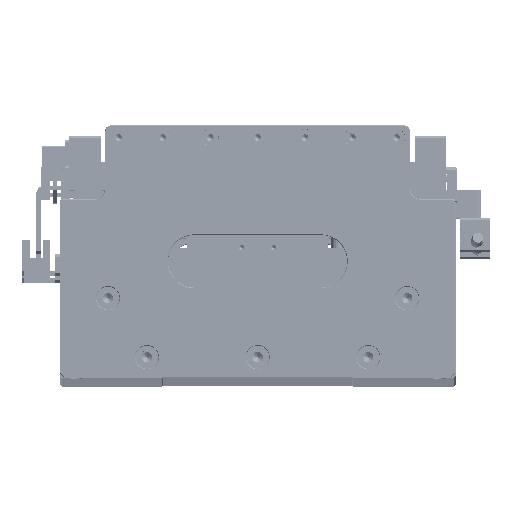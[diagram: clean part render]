
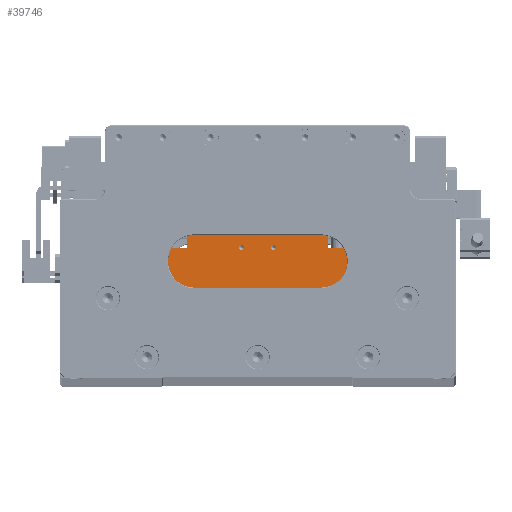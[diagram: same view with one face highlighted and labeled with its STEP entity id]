
A CAD part, top view. The second image highlights one B-rep face of the part: STEP entity #39746.
In plain terms, the highlighted planar face has unit normal (0, 0, 1).
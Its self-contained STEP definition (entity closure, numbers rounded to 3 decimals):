
#762 = DIRECTION ( 'NONE',  ( 0., 0., -1. ) ) ;
#2134 = ORIENTED_EDGE ( 'NONE', *, *, #82546, .T. ) ;
#2614 = CARTESIAN_POINT ( 'NONE',  ( -45., -8., 90. ) ) ;
#3076 = EDGE_LOOP ( 'NONE', ( #2134, #3342 ) ) ;
#3342 = ORIENTED_EDGE ( 'NONE', *, *, #88332, .T. ) ;
#4285 = DIRECTION ( 'NONE',  ( 0., 1., 0. ) ) ;
#4988 = CARTESIAN_POINT ( 'NONE',  ( -33.5, -0.2, 90. ) ) ;
#6734 = DIRECTION ( 'NONE',  ( 0., -1., 0. ) ) ;
#7431 = CARTESIAN_POINT ( 'NONE',  ( -45., -40., 90. ) ) ;
#7967 = CIRCLE ( 'NONE', #112229, 1.25 ) ;
#8592 = AXIS2_PLACEMENT_3D ( 'NONE', #46740, #102527, #65609 ) ;
#10066 = ORIENTED_EDGE ( 'NONE', *, *, #105198, .T. ) ;
#11569 = ORIENTED_EDGE ( 'NONE', *, *, #92191, .T. ) ;
#12053 = DIRECTION ( 'NONE',  ( 0., 1., 0. ) ) ;
#17045 = ORIENTED_EDGE ( 'NONE', *, *, #19380, .T. ) ;
#17154 = VERTEX_POINT ( 'NONE', #27489 ) ;
#17457 = CARTESIAN_POINT ( 'NONE',  ( 7.5, -8., 90. ) ) ;
#18883 = LINE ( 'NONE', #68315, #115866 ) ;
#18895 = VECTOR ( 'NONE', #56174, 1000. ) ;
#19380 = EDGE_CURVE ( 'NONE', #89592, #29031, #35617, .T. ) ;
#22302 = EDGE_CURVE ( 'NONE', #49864, #17154, #38801, .T. ) ;
#22520 = CARTESIAN_POINT ( 'NONE',  ( -7.5, -8., 90. ) ) ;
#23324 = VECTOR ( 'NONE', #35057, 1000. ) ;
#24656 = LINE ( 'NONE', #95156, #121679 ) ;
#24788 = LINE ( 'NONE', #121904, #18895 ) ;
#25972 = CARTESIAN_POINT ( 'NONE',  ( -6.25, -8., 90. ) ) ;
#26945 = DIRECTION ( 'NONE',  ( 1., 0., 0. ) ) ;
#27489 = CARTESIAN_POINT ( 'NONE',  ( 44.8, -40., 90. ) ) ;
#29031 = VERTEX_POINT ( 'NONE', #36005 ) ;
#29220 = LINE ( 'NONE', #81788, #23324 ) ;
#29389 = LINE ( 'NONE', #86353, #98395 ) ;
#29907 = VERTEX_POINT ( 'NONE', #41665 ) ;
#29931 = DIRECTION ( 'NONE',  ( -1., 0., 0. ) ) ;
#30086 = EDGE_CURVE ( 'NONE', #29907, #56947, #29220, .T. ) ;
#31585 = VECTOR ( 'NONE', #6734, 1000. ) ;
#31993 = DIRECTION ( 'NONE',  ( 1., 0., 0. ) ) ;
#35057 = DIRECTION ( 'NONE',  ( -1., 0., 0. ) ) ;
#35093 = CARTESIAN_POINT ( 'NONE',  ( -45., 0., 90. ) ) ;
#35617 = CIRCLE ( 'NONE', #65424, 1.25 ) ;
#36005 = CARTESIAN_POINT ( 'NONE',  ( 8.75, -8., 90. ) ) ;
#37435 = DIRECTION ( 'NONE',  ( 0., 0., -1. ) ) ;
#37463 = EDGE_CURVE ( 'NONE', #54098, #29907, #29389, .T. ) ;
#37959 = ORIENTED_EDGE ( 'NONE', *, *, #37463, .T. ) ;
#38162 = FACE_OUTER_BOUND ( 'NONE', #119986, .T. ) ;
#38801 = LINE ( 'NONE', #61481, #104776 ) ;
#39231 = DIRECTION ( 'NONE',  ( 0., -1., 0. ) ) ;
#39653 = CIRCLE ( 'NONE', #73042, 1.25 ) ;
#39746 = ADVANCED_FACE ( 'NONE', ( #38162, #110089, #87996 ), #121902, .T. ) ;
#41665 = CARTESIAN_POINT ( 'NONE',  ( -33.5, -8., 90. ) ) ;
#41835 = LINE ( 'NONE', #116803, #113821 ) ;
#46740 = CARTESIAN_POINT ( 'NONE',  ( 0., 0., 90. ) ) ;
#49499 = CARTESIAN_POINT ( 'NONE',  ( -8.75, -8., 90. ) ) ;
#49864 = VERTEX_POINT ( 'NONE', #7431 ) ;
#52881 = EDGE_CURVE ( 'NONE', #56947, #49864, #87351, .T. ) ;
#54098 = VERTEX_POINT ( 'NONE', #4988 ) ;
#56144 = EDGE_CURVE ( 'NONE', #29031, #89592, #39653, .T. ) ;
#56174 = DIRECTION ( 'NONE',  ( -1., 0., 0. ) ) ;
#56947 = VERTEX_POINT ( 'NONE', #2614 ) ;
#56992 = CARTESIAN_POINT ( 'NONE',  ( 7.5, -8., 90. ) ) ;
#57142 = VERTEX_POINT ( 'NONE', #25972 ) ;
#61481 = CARTESIAN_POINT ( 'NONE',  ( -45., -40., 90. ) ) ;
#61772 = ORIENTED_EDGE ( 'NONE', *, *, #116746, .T. ) ;
#65424 = AXIS2_PLACEMENT_3D ( 'NONE', #17457, #83133, #26945 ) ;
#65609 = DIRECTION ( 'NONE',  ( 1., 0., 0. ) ) ;
#66455 = DIRECTION ( 'NONE',  ( 1., 0., 0. ) ) ;
#68315 = CARTESIAN_POINT ( 'NONE',  ( 44.8, 0., 90. ) ) ;
#73042 = AXIS2_PLACEMENT_3D ( 'NONE', #56992, #762, #66455 ) ;
#79292 = VERTEX_POINT ( 'NONE', #49499 ) ;
#81059 = CARTESIAN_POINT ( 'NONE',  ( 33.5, -0.2, 90. ) ) ;
#81788 = CARTESIAN_POINT ( 'NONE',  ( 0., -8., 90. ) ) ;
#82546 = EDGE_CURVE ( 'NONE', #57142, #79292, #90930, .T. ) ;
#83133 = DIRECTION ( 'NONE',  ( 0., 0., -1. ) ) ;
#83584 = EDGE_CURVE ( 'NONE', #100646, #111023, #24656, .T. ) ;
#86353 = CARTESIAN_POINT ( 'NONE',  ( -33.5, 0., 90. ) ) ;
#87351 = LINE ( 'NONE', #35093, #31585 ) ;
#87996 = FACE_BOUND ( 'NONE', #3076, .T. ) ;
#88144 = DIRECTION ( 'NONE',  ( 0., 0., -1. ) ) ;
#88332 = EDGE_CURVE ( 'NONE', #79292, #57142, #7967, .T. ) ;
#88809 = CARTESIAN_POINT ( 'NONE',  ( 44.8, -8., 90. ) ) ;
#89592 = VERTEX_POINT ( 'NONE', #115517 ) ;
#90930 = CIRCLE ( 'NONE', #105510, 1.25 ) ;
#91796 = ORIENTED_EDGE ( 'NONE', *, *, #83584, .T. ) ;
#92191 = EDGE_CURVE ( 'NONE', #97426, #54098, #24788, .T. ) ;
#92995 = ORIENTED_EDGE ( 'NONE', *, *, #22302, .T. ) ;
#93571 = CARTESIAN_POINT ( 'NONE',  ( -7.5, -8., 90. ) ) ;
#95156 = CARTESIAN_POINT ( 'NONE',  ( 0., -8., 90. ) ) ;
#96962 = EDGE_LOOP ( 'NONE', ( #120135, #17045 ) ) ;
#97426 = VERTEX_POINT ( 'NONE', #81059 ) ;
#98395 = VECTOR ( 'NONE', #39231, 1000. ) ;
#99235 = DIRECTION ( 'NONE',  ( 1., 0., 0. ) ) ;
#100646 = VERTEX_POINT ( 'NONE', #88809 ) ;
#102527 = DIRECTION ( 'NONE',  ( 0., 0., 1. ) ) ;
#103044 = DIRECTION ( 'NONE',  ( 1., 0., 0. ) ) ;
#103100 = CARTESIAN_POINT ( 'NONE',  ( 33.5, -8., 90. ) ) ;
#104776 = VECTOR ( 'NONE', #99235, 1000. ) ;
#105198 = EDGE_CURVE ( 'NONE', #111023, #97426, #41835, .T. ) ;
#105510 = AXIS2_PLACEMENT_3D ( 'NONE', #93571, #37435, #103044 ) ;
#110089 = FACE_BOUND ( 'NONE', #96962, .T. ) ;
#111023 = VERTEX_POINT ( 'NONE', #103100 ) ;
#112229 = AXIS2_PLACEMENT_3D ( 'NONE', #22520, #88144, #31993 ) ;
#113821 = VECTOR ( 'NONE', #4285, 1000. ) ;
#115395 = ORIENTED_EDGE ( 'NONE', *, *, #52881, .T. ) ;
#115517 = CARTESIAN_POINT ( 'NONE',  ( 6.25, -8., 90. ) ) ;
#115866 = VECTOR ( 'NONE', #12053, 1000. ) ;
#116346 = ORIENTED_EDGE ( 'NONE', *, *, #30086, .T. ) ;
#116746 = EDGE_CURVE ( 'NONE', #17154, #100646, #18883, .T. ) ;
#116803 = CARTESIAN_POINT ( 'NONE',  ( 33.5, 0., 90. ) ) ;
#119986 = EDGE_LOOP ( 'NONE', ( #116346, #115395, #92995, #61772, #91796, #10066, #11569, #37959 ) ) ;
#120135 = ORIENTED_EDGE ( 'NONE', *, *, #56144, .T. ) ;
#121679 = VECTOR ( 'NONE', #29931, 1000. ) ;
#121902 = PLANE ( 'NONE',  #8592 ) ;
#121904 = CARTESIAN_POINT ( 'NONE',  ( 0., -0.2, 90. ) ) ;
